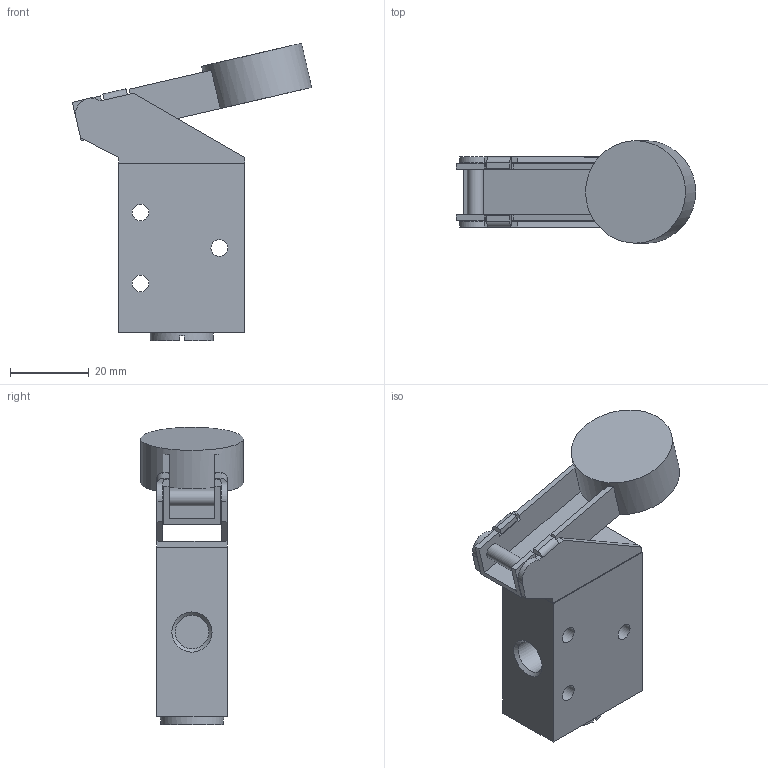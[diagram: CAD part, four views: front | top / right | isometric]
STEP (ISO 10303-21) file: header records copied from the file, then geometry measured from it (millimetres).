
FILE_DESCRIPTION((''),'2;1');
FILE_NAME('I:\Area Tecnica\Documenti\A-Roberto\_Inventor\Rev.Librerie\700\NEW\718_32_2_6-#.stp','2008-02-25T14:13:20',('rivolro1'),(''),'Autodesk Inventor 2008','Autodesk Inventor 2008','');
FILE_SCHEMA(('AUTOMOTIVE_DESIGN { 1 0 10303 214 1 1 1 1 }'));
Length unit declared in the file: millimetre
Products named in the file (3): 718_32_2_6-#; 718_32_2_6-#(A); 718_32_2_6-#(B)
Assembly tree (2 placements, depth 2):
  718_32_2_6-#
    718_32_2_6-#(A)
    718_32_2_6-#(B)
Bounding box: 60.71 x 25.99 x 75.45 mm (x, y, z)
Volume: 32878.4 mm3; surface area: 14521.5 mm2
Topology: 3 solids, 3 shells, 86 faces, 199 edges, 127 vertices
Faces by surface type: plane 58, bspline 17, cylinder 11
Full cylindrical faces by diameter (mm): 4 x1, 4.25 x3, 16 x1, 26 x1
Entity records: 2579 total; most frequent: CARTESIAN_POINT 588, DIRECTION 374, ORIENTED_EDGE 362, EDGE_CURVE 181, VECTOR 136, LINE 136, VERTEX_POINT 125, AXIS2_PLACEMENT_3D 119
